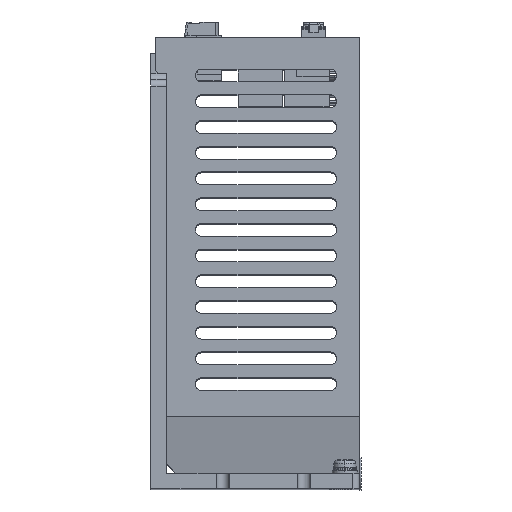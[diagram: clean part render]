
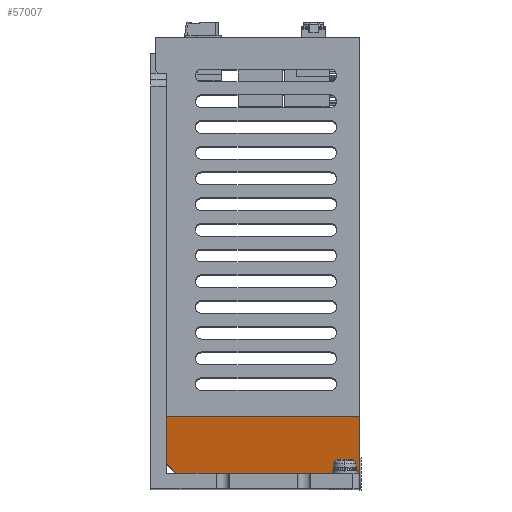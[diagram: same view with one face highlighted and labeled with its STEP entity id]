
A CAD part, top view. The second image highlights one B-rep face of the part: STEP entity #57007.
In plain terms, the highlighted planar face has unit normal (0, -0.194, 0.981).
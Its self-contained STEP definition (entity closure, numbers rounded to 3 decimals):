
#2074 = CARTESIAN_POINT ( 'NONE',  ( -33.078, 26.357, 112.928 ) ) ;
#2153 = CARTESIAN_POINT ( 'NONE',  ( -93.477, 29.593, 113.568 ) ) ;
#2155 = DIRECTION ( 'NONE',  ( 0.707, -0.694, -0.137 ) ) ;
#2162 = DIRECTION ( 'NONE',  ( -1., 0., 0. ) ) ;
#13319 = ORIENTED_EDGE ( 'NONE', *, *, #57504, .F. ) ;
#13321 = ORIENTED_EDGE ( 'NONE', *, *, #55553, .F. ) ;
#13323 = ORIENTED_EDGE ( 'NONE', *, *, #46236, .T. ) ;
#13325 = ORIENTED_EDGE ( 'NONE', *, *, #41173, .F. ) ;
#13327 = ORIENTED_EDGE ( 'NONE', *, *, #41172, .T. ) ;
#13329 = ORIENTED_EDGE ( 'NONE', *, *, #41077, .F. ) ;
#17917 = LINE ( 'NONE', #77010, #17918 ) ;
#17918 = VECTOR ( 'NONE', #77011, 1000. ) ;
#21924 = CARTESIAN_POINT ( 'NONE',  ( -93.178, 29.3, 113.51 ) ) ;
#24607 = VERTEX_POINT ( 'NONE', #86140 ) ;
#24626 = VERTEX_POINT ( 'NONE', #85826 ) ;
#24707 = VERTEX_POINT ( 'NONE', #85947 ) ;
#24994 = VERTEX_POINT ( 'NONE', #85715 ) ;
#28647 = EDGE_LOOP ( 'NONE', ( #13329, #13327, #13325, #13323, #13321, #13319 ) ) ;
#41077 = EDGE_CURVE ( 'NONE', #41602, #24707, #71737, .T. ) ;
#41172 = EDGE_CURVE ( 'NONE', #41602, #53573, #72254, .T. ) ;
#41173 = EDGE_CURVE ( 'NONE', #24994, #53573, #72238, .T. ) ;
#41602 = VERTEX_POINT ( 'NONE', #21924 ) ;
#43152 = CARTESIAN_POINT ( 'NONE',  ( -33.078, 26.357, 112.928 ) ) ;
#43153 = DIRECTION ( 'NONE',  ( 0., -0.981, -0.194 ) ) ;
#46236 = EDGE_CURVE ( 'NONE', #24994, #24626, #46381, .T. ) ;
#46381 = LINE ( 'NONE', #47970, #46385 ) ;
#46385 = VECTOR ( 'NONE', #47992, 1000. ) ;
#47970 = CARTESIAN_POINT ( 'NONE',  ( -96.776, 26.357, 112.928 ) ) ;
#47992 = DIRECTION ( 'NONE',  ( 1., 0., 0. ) ) ;
#53573 = VERTEX_POINT ( 'NONE', #66887 ) ;
#55553 = EDGE_CURVE ( 'NONE', #24607, #24626, #65810, .T. ) ;
#57007 = ADVANCED_FACE ( 'NONE', ( #114975 ), #66751, .T. ) ;
#57504 = EDGE_CURVE ( 'NONE', #24707, #24607, #17917, .T. ) ;
#65810 = LINE ( 'NONE', #43152, #65815 ) ;
#65815 = VECTOR ( 'NONE', #43153, 1000. ) ;
#66740 = CARTESIAN_POINT ( 'NONE',  ( -96.776, 26.357, 112.928 ) ) ;
#66751 = PLANE ( 'NONE',  #90850 ) ;
#66763 = DIRECTION ( 'NONE',  ( 0., -0.194, 0.981 ) ) ;
#66765 = DIRECTION ( 'NONE',  ( 0., -0.981, -0.194 ) ) ;
#66887 = CARTESIAN_POINT ( 'NONE',  ( -90.178, 26.357, 112.928 ) ) ;
#71737 = LINE ( 'NONE', #111643, #71752 ) ;
#71752 = VECTOR ( 'NONE', #111648, 1000. ) ;
#72238 = LINE ( 'NONE', #2074, #72257 ) ;
#72254 = LINE ( 'NONE', #2153, #72255 ) ;
#72255 = VECTOR ( 'NONE', #2155, 1000. ) ;
#72257 = VECTOR ( 'NONE', #2162, 1000. ) ;
#77010 = CARTESIAN_POINT ( 'NONE',  ( -96.776, 44.057, 116.428 ) ) ;
#77011 = DIRECTION ( 'NONE',  ( 1., 0., 0. ) ) ;
#85715 = CARTESIAN_POINT ( 'NONE',  ( -48.078, 26.357, 112.928 ) ) ;
#85826 = CARTESIAN_POINT ( 'NONE',  ( -33.078, 26.357, 112.928 ) ) ;
#85947 = CARTESIAN_POINT ( 'NONE',  ( -93.178, 44.057, 116.428 ) ) ;
#86140 = CARTESIAN_POINT ( 'NONE',  ( -33.078, 44.057, 116.428 ) ) ;
#90850 = AXIS2_PLACEMENT_3D ( 'NONE', #66740, #66763, #66765 ) ;
#111643 = CARTESIAN_POINT ( 'NONE',  ( -93.178, 26.357, 112.928 ) ) ;
#111648 = DIRECTION ( 'NONE',  ( 0., 0.981, 0.194 ) ) ;
#114975 = FACE_OUTER_BOUND ( 'NONE', #28647, .T. ) ;
